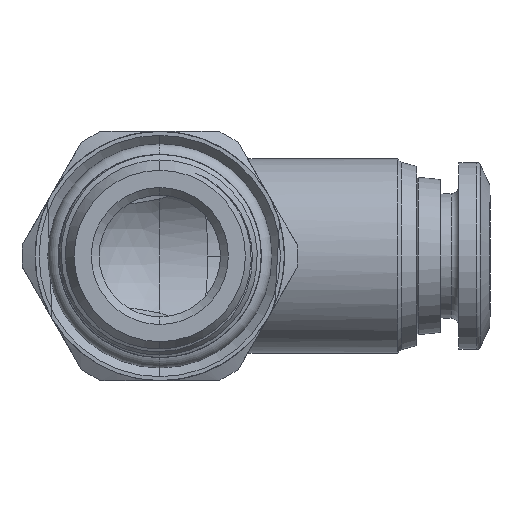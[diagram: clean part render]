
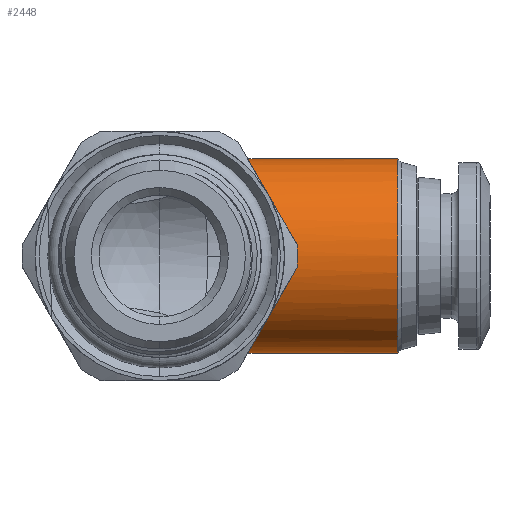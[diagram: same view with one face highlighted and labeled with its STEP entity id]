
A CAD part, front view. The second image highlights one B-rep face of the part: STEP entity #2448.
In plain terms, the highlighted cylindrical face has radius 6.25 mm (diameter 12.5 mm), a partial arc.
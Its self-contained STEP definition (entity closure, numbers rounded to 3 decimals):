
#88 = CARTESIAN_POINT ( 'NONE',  ( 2.825, 14.4, -6.25 ) ) ;
#301 = CARTESIAN_POINT ( 'NONE',  ( 4.731, 9.669, -4.884 ) ) ;
#494 = CARTESIAN_POINT ( 'NONE',  ( 15.268, 14.4, 6.25 ) ) ;
#507 = CARTESIAN_POINT ( 'NONE',  ( 2.621, 13.636, -6.25 ) ) ;
#511 = EDGE_CURVE ( 'NONE', #4548, #4021, #6059, .T. ) ;
#539 = CARTESIAN_POINT ( 'NONE',  ( 2.419, 12.885, -6.112 ) ) ;
#588 = EDGE_CURVE ( 'NONE', #8130, #3708, #3971, .T. ) ;
#597 = CYLINDRICAL_SURFACE ( 'NONE', #7671, 6.25 ) ;
#619 = CARTESIAN_POINT ( 'NONE',  ( 2.228, 12.172, -5.839 ) ) ;
#731 = ORIENTED_EDGE ( 'NONE', *, *, #2408, .T. ) ;
#810 = CARTESIAN_POINT ( 'NONE',  ( 0., 14.4, -6.25 ) ) ;
#1015 =( BOUNDED_CURVE ( )  B_SPLINE_CURVE ( 3, ( #8429, #8578, #301, #1425 ),
 .UNSPECIFIED., .F., .F. ) 
 B_SPLINE_CURVE_WITH_KNOTS ( ( 4, 4 ),
 ( 3.142, 4.348 ),
 .UNSPECIFIED. ) 
 CURVE ( )  GEOMETRIC_REPRESENTATION_ITEM ( )  RATIONAL_B_SPLINE_CURVE ( ( 1., 0.882, 0.882, 1. ) ) 
 REPRESENTATION_ITEM ( '' )  );
#1019 = DIRECTION ( 'NONE',  ( -1., 0., 0. ) ) ;
#1225 = DIRECTION ( 'NONE',  ( -1., 0., 0. ) ) ;
#1301 = AXIS2_PLACEMENT_3D ( 'NONE', #3677, #3647, #3589 ) ;
#1425 = CARTESIAN_POINT ( 'NONE',  ( 2.228, 12.172, -5.839 ) ) ;
#1583 = VERTEX_POINT ( 'NONE', #2293 ) ;
#1638 = CARTESIAN_POINT ( 'NONE',  ( 0., 14.4, 0. ) ) ;
#1672 = VERTEX_POINT ( 'NONE', #6144 ) ;
#1765 = EDGE_LOOP ( 'NONE', ( #8059, #731, #7999, #8168, #2122, #4126, #2041 ) ) ;
#1826 = VECTOR ( 'NONE', #1019, 1000. ) ;
#2041 = ORIENTED_EDGE ( 'NONE', *, *, #3789, .T. ) ;
#2122 = ORIENTED_EDGE ( 'NONE', *, *, #4969, .T. ) ;
#2293 = CARTESIAN_POINT ( 'NONE',  ( 6.25, 8.15, 0. ) ) ;
#2315 = CARTESIAN_POINT ( 'NONE',  ( 0., 14.4, 6.25 ) ) ;
#2408 = EDGE_CURVE ( 'NONE', #8130, #4548, #8611, .T. ) ;
#2448 = ADVANCED_FACE ( 'NONE', ( #3441 ), #597, .T. ) ;
#2514 = DIRECTION ( 'NONE',  ( 0., 0., 1. ) ) ;
#3367 = EDGE_CURVE ( 'NONE', #4021, #4049, #4323, .T. ) ;
#3421 = EDGE_CURVE ( 'NONE', #1583, #1672, #1015, .T. ) ;
#3441 = FACE_OUTER_BOUND ( 'NONE', #1765, .T. ) ;
#3506 = CARTESIAN_POINT ( 'NONE',  ( 6.25, 8.15, 0. ) ) ;
#3570 = CARTESIAN_POINT ( 'NONE',  ( 6.25, 8.15, 2.678 ) ) ;
#3589 = DIRECTION ( 'NONE',  ( 0., 0., 1. ) ) ;
#3647 = DIRECTION ( 'NONE',  ( -1., 0., 0. ) ) ;
#3677 = CARTESIAN_POINT ( 'NONE',  ( 15.268, 14.4, 0. ) ) ;
#3708 = VERTEX_POINT ( 'NONE', #4841 ) ;
#3789 = EDGE_CURVE ( 'NONE', #1672, #3708, #7538, .T. ) ;
#3890 = CARTESIAN_POINT ( 'NONE',  ( 2.228, 12.172, 5.839 ) ) ;
#3971 = LINE ( 'NONE', #810, #1826 ) ;
#4021 = VERTEX_POINT ( 'NONE', #4674 ) ;
#4049 = VERTEX_POINT ( 'NONE', #4252 ) ;
#4126 = ORIENTED_EDGE ( 'NONE', *, *, #3421, .T. ) ;
#4225 =( BOUNDED_CURVE ( )  B_SPLINE_CURVE ( 3, ( #3890, #5179, #3570, #3506 ),
 .UNSPECIFIED., .F., .F. ) 
 B_SPLINE_CURVE_WITH_KNOTS ( ( 4, 4 ),
 ( 1.935, 3.142 ),
 .UNSPECIFIED. ) 
 CURVE ( )  GEOMETRIC_REPRESENTATION_ITEM ( )  RATIONAL_B_SPLINE_CURVE ( ( 1., 0.882, 0.882, 1. ) ) 
 REPRESENTATION_ITEM ( '' )  );
#4252 = CARTESIAN_POINT ( 'NONE',  ( 2.228, 12.172, 5.839 ) ) ;
#4323 =( BOUNDED_CURVE ( )  B_SPLINE_CURVE ( 3, ( #7586, #7448, #7360, #7664 ),
 .UNSPECIFIED., .F., .F. ) 
 B_SPLINE_CURVE_WITH_KNOTS ( ( 4, 4 ),
 ( 4.712, 5.077 ),
 .UNSPECIFIED. ) 
 CURVE ( )  GEOMETRIC_REPRESENTATION_ITEM ( )  RATIONAL_B_SPLINE_CURVE ( ( 1., 0.989, 0.989, 1. ) ) 
 REPRESENTATION_ITEM ( '' )  );
#4403 = DIRECTION ( 'NONE',  ( -1., 0., 0. ) ) ;
#4548 = VERTEX_POINT ( 'NONE', #494 ) ;
#4652 = CARTESIAN_POINT ( 'NONE',  ( 15.268, 14.4, -6.25 ) ) ;
#4674 = CARTESIAN_POINT ( 'NONE',  ( 2.825, 14.4, 6.25 ) ) ;
#4841 = CARTESIAN_POINT ( 'NONE',  ( 2.825, 14.4, -6.25 ) ) ;
#4969 = EDGE_CURVE ( 'NONE', #4049, #1583, #4225, .T. ) ;
#5179 = CARTESIAN_POINT ( 'NONE',  ( 4.731, 9.669, 4.884 ) ) ;
#6059 = LINE ( 'NONE', #2315, #7332 ) ;
#6144 = CARTESIAN_POINT ( 'NONE',  ( 2.228, 12.172, -5.839 ) ) ;
#7332 = VECTOR ( 'NONE', #1225, 1000. ) ;
#7360 = CARTESIAN_POINT ( 'NONE',  ( 2.419, 12.885, 6.112 ) ) ;
#7448 = CARTESIAN_POINT ( 'NONE',  ( 2.621, 13.636, 6.25 ) ) ;
#7538 =( BOUNDED_CURVE ( )  B_SPLINE_CURVE ( 3, ( #619, #539, #507, #88 ),
 .UNSPECIFIED., .F., .F. ) 
 B_SPLINE_CURVE_WITH_KNOTS ( ( 4, 4 ),
 ( 1.206, 1.571 ),
 .UNSPECIFIED. ) 
 CURVE ( )  GEOMETRIC_REPRESENTATION_ITEM ( )  RATIONAL_B_SPLINE_CURVE ( ( 1., 0.989, 0.989, 1. ) ) 
 REPRESENTATION_ITEM ( '' )  );
#7586 = CARTESIAN_POINT ( 'NONE',  ( 2.825, 14.4, 6.25 ) ) ;
#7664 = CARTESIAN_POINT ( 'NONE',  ( 2.228, 12.172, 5.839 ) ) ;
#7671 = AXIS2_PLACEMENT_3D ( 'NONE', #1638, #4403, #2514 ) ;
#7999 = ORIENTED_EDGE ( 'NONE', *, *, #511, .T. ) ;
#8059 = ORIENTED_EDGE ( 'NONE', *, *, #588, .F. ) ;
#8130 = VERTEX_POINT ( 'NONE', #4652 ) ;
#8168 = ORIENTED_EDGE ( 'NONE', *, *, #3367, .T. ) ;
#8429 = CARTESIAN_POINT ( 'NONE',  ( 6.25, 8.15, 0. ) ) ;
#8578 = CARTESIAN_POINT ( 'NONE',  ( 6.25, 8.15, -2.678 ) ) ;
#8611 = CIRCLE ( 'NONE', #1301, 6.25 ) ;
